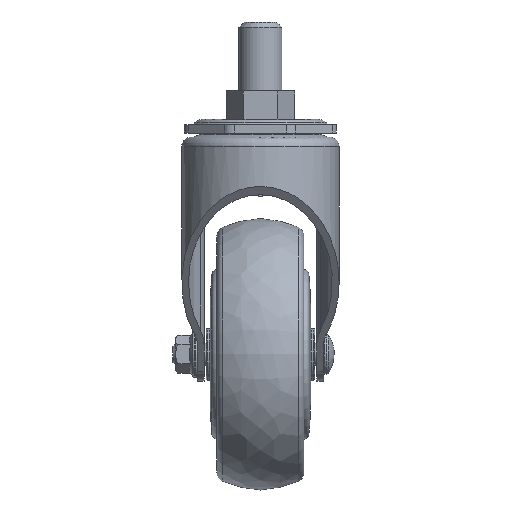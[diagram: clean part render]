
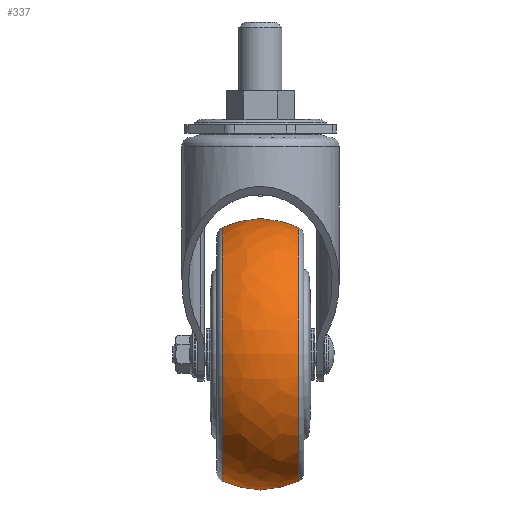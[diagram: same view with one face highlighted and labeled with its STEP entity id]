
A CAD part, left-side view. The second image highlights one B-rep face of the part: STEP entity #337.
In plain terms, the highlighted free-form (B-spline) face has degree [2, 2] with [3, 9] control points.
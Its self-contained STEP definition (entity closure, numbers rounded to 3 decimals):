
#265=CARTESIAN_POINT('',(-27.388,47.64,-81.75));
#266=VERTEX_POINT('',#265);
#267=CARTESIAN_POINT('',(19.37,47.64,-81.75));
#268=DIRECTION('',(0.0,-1.0,0.0));
#269=DIRECTION('',(-1.0,0.0,0.));
#270=AXIS2_PLACEMENT_3D('',#267,#268,#269);
#271=CIRCLE('',#270,46.758);
#272=EDGE_CURVE('',#266,#266,#271,.T.);
#288=CARTESIAN_POINT('',(19.37,47.64,-34.992));
#289=CARTESIAN_POINT('',(19.37,61.675,-28.142));
#290=CARTESIAN_POINT('',(19.37,75.71,-34.992));
#291=CARTESIAN_POINT('',(-27.388,47.64,-34.992));
#292=CARTESIAN_POINT('',(-34.238,61.675,-28.142));
#293=CARTESIAN_POINT('',(-27.388,75.71,-34.992));
#294=CARTESIAN_POINT('',(-27.388,47.64,-81.75));
#295=CARTESIAN_POINT('',(-34.238,61.675,-81.75));
#296=CARTESIAN_POINT('',(-27.388,75.71,-81.75));
#297=CARTESIAN_POINT('',(-27.388,47.64,-128.508));
#298=CARTESIAN_POINT('',(-34.238,61.675,-135.358));
#299=CARTESIAN_POINT('',(-27.388,75.71,-128.508));
#300=CARTESIAN_POINT('',(19.37,47.64,-128.508));
#301=CARTESIAN_POINT('',(19.37,61.675,-135.358));
#302=CARTESIAN_POINT('',(19.37,75.71,-128.508));
#303=CARTESIAN_POINT('',(66.128,47.64,-128.508));
#304=CARTESIAN_POINT('',(72.977,61.675,-135.358));
#305=CARTESIAN_POINT('',(66.128,75.71,-128.508));
#306=CARTESIAN_POINT('',(66.128,47.64,-81.75));
#307=CARTESIAN_POINT('',(72.977,61.675,-81.75));
#308=CARTESIAN_POINT('',(66.128,75.71,-81.75));
#309=CARTESIAN_POINT('',(66.128,47.64,-34.992));
#310=CARTESIAN_POINT('',(72.977,61.675,-28.142));
#311=CARTESIAN_POINT('',(66.128,75.71,-34.992));
#312=CARTESIAN_POINT('',(19.37,47.64,-34.992));
#313=CARTESIAN_POINT('',(19.37,61.675,-28.142));
#314=CARTESIAN_POINT('',(19.37,75.71,-34.992));
#322=(BOUNDED_SURFACE()B_SPLINE_SURFACE(2,2,((#288,#291,#294,#297,#300,#303,#306,#309,#312),(#289,#292,#295,#298,#301,#304,#307,#310,#313),(#290,#293,#296,#299,#302,#305,#308,#311,#314)),.UNSPECIFIED.,.F.,.T.,.U.)B_SPLINE_SURFACE_WITH_KNOTS((3,3),(3,2,2,2,3),(-0.454,0.454),(0.0,1.571,3.142,4.712,6.283),.UNSPECIFIED.)GEOMETRIC_REPRESENTATION_ITEM()RATIONAL_B_SPLINE_SURFACE(((1.0,0.707,1.0,0.707,1.0,0.707,1.0,0.707,1.0),(0.899,0.635,0.899,0.635,0.899,0.635,0.899,0.635,0.899),(1.0,0.707,1.0,0.707,1.0,0.707,1.0,0.707,1.0)))REPRESENTATION_ITEM('')SURFACE());
#323=CARTESIAN_POINT('',(-27.388,75.71,-81.75));
#324=VERTEX_POINT('',#323);
#325=CARTESIAN_POINT('',(19.37,75.71,-81.75));
#326=DIRECTION('',(0.0,-1.0,0.0));
#327=DIRECTION('',(-1.0,0.0,0.));
#328=AXIS2_PLACEMENT_3D('',#325,#326,#327);
#329=CIRCLE('',#328,46.758);
#330=EDGE_CURVE('',#324,#324,#329,.T.);
#331=ORIENTED_EDGE('',*,*,#330,.T.);
#332=EDGE_LOOP('',(#331));
#333=FACE_OUTER_BOUND('',#332,.T.);
#334=ORIENTED_EDGE('',*,*,#272,.F.);
#335=EDGE_LOOP('',(#334));
#336=FACE_BOUND('',#335,.T.);
#337=ADVANCED_FACE('',(#333,#336),#322,.T.);
